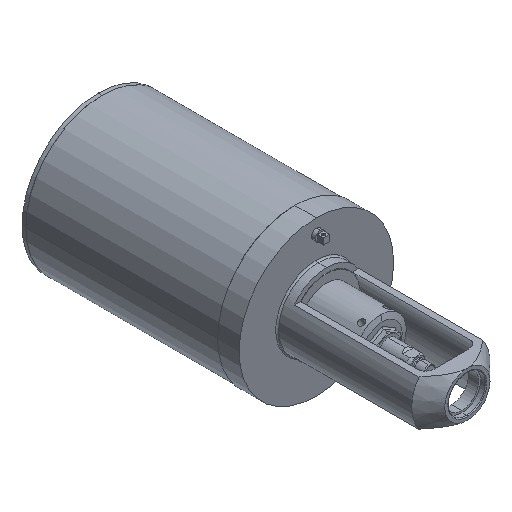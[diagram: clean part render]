
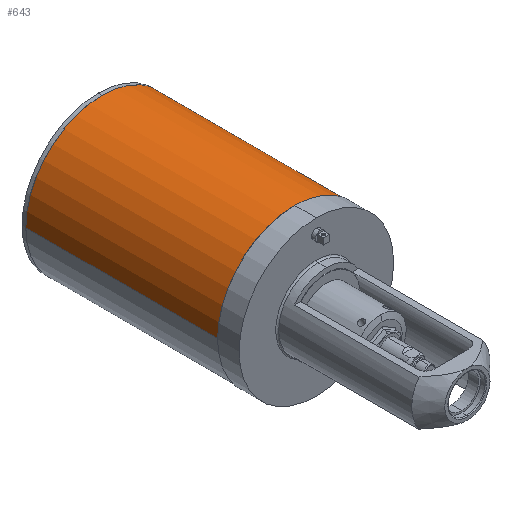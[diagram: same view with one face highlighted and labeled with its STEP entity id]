
A CAD part, isometric view. The second image highlights one B-rep face of the part: STEP entity #643.
In plain terms, the highlighted cylindrical face has radius 78.308 mm (diameter 156.616 mm), a partial arc.
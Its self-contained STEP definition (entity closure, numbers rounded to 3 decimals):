
#9 = EDGE_CURVE ( 'NONE', #4429, #3677, #1491, .T. ) ;
#643 = ADVANCED_FACE ( 'NONE', ( #5623 ), #5624, .T. ) ;
#700 = EDGE_LOOP ( 'NONE', ( #5538, #5539, #5540, #5541 ) ) ;
#1491 = CIRCLE ( 'NONE', #3613, 78.308 ) ;
#2825 = CARTESIAN_POINT ( 'NONE',  ( 0., 373.913, 0. ) ) ;
#2826 = DIRECTION ( 'NONE',  ( 0., 1., 0. ) ) ;
#2827 = DIRECTION ( 'NONE',  ( -1., 0., 0. ) ) ;
#3024 = AXIS2_PLACEMENT_3D ( 'NONE', #5348, #5346, #5345 ) ;
#3138 = CARTESIAN_POINT ( 'NONE',  ( 78.308, 373.913, 0. ) ) ;
#3193 = CARTESIAN_POINT ( 'NONE',  ( -78.308, 373.913, 0. ) ) ;
#3246 = CARTESIAN_POINT ( 'NONE',  ( -78.308, 177.479, 0. ) ) ;
#3381 = AXIS2_PLACEMENT_3D ( 'NONE', #2825, #2826, #2827 ) ;
#3613 = AXIS2_PLACEMENT_3D ( 'NONE', #3905, #3904, #3903 ) ;
#3628 = EDGE_CURVE ( 'NONE', #3812, #3803, #5688, .T. ) ;
#3630 = EDGE_CURVE ( 'NONE', #3677, #3812, #5690, .T. ) ;
#3632 = EDGE_CURVE ( 'NONE', #4429, #3803, #5692, .T. ) ;
#3677 = VERTEX_POINT ( 'NONE', #4949 ) ;
#3803 = VERTEX_POINT ( 'NONE', #3193 ) ;
#3812 = VERTEX_POINT ( 'NONE', #3138 ) ;
#3903 = DIRECTION ( 'NONE',  ( -1., 0., 0. ) ) ;
#3904 = DIRECTION ( 'NONE',  ( 0., 1., 0. ) ) ;
#3905 = CARTESIAN_POINT ( 'NONE',  ( 0., 177.479, 0. ) ) ;
#4429 = VERTEX_POINT ( 'NONE', #3246 ) ;
#4949 = CARTESIAN_POINT ( 'NONE',  ( 78.308, 177.479, 0. ) ) ;
#5328 = DIRECTION ( 'NONE',  ( 0., 1., 0. ) ) ;
#5330 = CARTESIAN_POINT ( 'NONE',  ( -78.308, 373.913, 0. ) ) ;
#5340 = DIRECTION ( 'NONE',  ( 0., 1., 0. ) ) ;
#5341 = CARTESIAN_POINT ( 'NONE',  ( 78.308, 373.913, 0. ) ) ;
#5345 = DIRECTION ( 'NONE',  ( -1., 0., 0. ) ) ;
#5346 = DIRECTION ( 'NONE',  ( 0., -1., 0. ) ) ;
#5348 = CARTESIAN_POINT ( 'NONE',  ( 0., 373.913, 0. ) ) ;
#5538 = ORIENTED_EDGE ( 'NONE', *, *, #9, .T. ) ;
#5539 = ORIENTED_EDGE ( 'NONE', *, *, #3630, .T. ) ;
#5540 = ORIENTED_EDGE ( 'NONE', *, *, #3628, .T. ) ;
#5541 = ORIENTED_EDGE ( 'NONE', *, *, #3632, .F. ) ;
#5623 = FACE_OUTER_BOUND ( 'NONE', #700, .T. ) ;
#5624 = CYLINDRICAL_SURFACE ( 'NONE', #3381, 78.308 ) ;
#5688 = CIRCLE ( 'NONE', #3024, 78.308 ) ;
#5690 = LINE ( 'NONE', #5341, #5691 ) ;
#5691 = VECTOR ( 'NONE', #5340, 1000. ) ;
#5692 = LINE ( 'NONE', #5330, #5693 ) ;
#5693 = VECTOR ( 'NONE', #5328, 1000. ) ;
